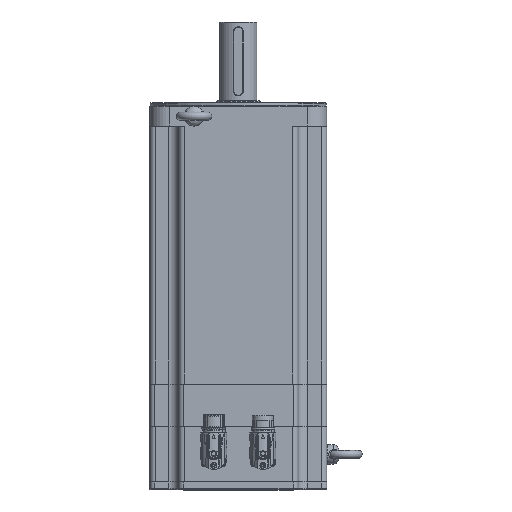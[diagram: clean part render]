
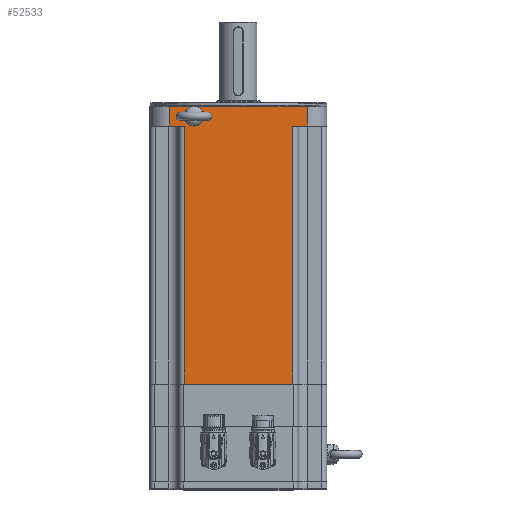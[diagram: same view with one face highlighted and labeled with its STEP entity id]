
A CAD part, top view. The second image highlights one B-rep face of the part: STEP entity #52533.
In plain terms, the highlighted planar face has unit normal (0, 0, 1).
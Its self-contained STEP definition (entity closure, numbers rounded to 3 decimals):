
#2231=PLANE('',#56345);
#4537=LINE('',#86898,#7006);
#4550=LINE('',#86970,#7019);
#4553=LINE('',#86987,#7022);
#4584=LINE('',#87093,#7053);
#4585=LINE('',#87094,#7054);
#4586=LINE('',#87096,#7055);
#4587=LINE('',#87098,#7056);
#4588=LINE('',#87099,#7057);
#7006=VECTOR('',#65711,1000.);
#7019=VECTOR('',#65776,1000.);
#7022=VECTOR('',#65793,1000.);
#7053=VECTOR('',#65896,1000.);
#7054=VECTOR('',#65897,1000.);
#7055=VECTOR('',#65898,1000.);
#7056=VECTOR('',#65899,1000.);
#7057=VECTOR('',#65900,1000.);
#17040=ORIENTED_EDGE('',*,*,#23867,.T.);
#17041=ORIENTED_EDGE('',*,*,#23776,.F.);
#17042=ORIENTED_EDGE('',*,*,#23868,.T.);
#17043=ORIENTED_EDGE('',*,*,#23808,.F.);
#17044=ORIENTED_EDGE('',*,*,#23869,.T.);
#17045=ORIENTED_EDGE('',*,*,#23870,.F.);
#17046=ORIENTED_EDGE('',*,*,#23871,.T.);
#17047=ORIENTED_EDGE('',*,*,#23816,.F.);
#17048=ORIENTED_EDGE('',*,*,#23872,.T.);
#23776=EDGE_CURVE('',#28055,#28056,#4537,.T.);
#23808=EDGE_CURVE('',#28087,#28088,#4550,.T.);
#23816=EDGE_CURVE('',#28095,#28096,#4553,.T.);
#23867=EDGE_CURVE('',#28133,#28133,#30486,.T.);
#23868=EDGE_CURVE('',#28055,#28088,#4584,.F.);
#23869=EDGE_CURVE('',#28087,#28134,#4585,.T.);
#23870=EDGE_CURVE('',#28135,#28134,#4586,.T.);
#23871=EDGE_CURVE('',#28135,#28096,#4587,.F.);
#23872=EDGE_CURVE('',#28095,#28056,#4588,.T.);
#28055=VERTEX_POINT('',#86899);
#28056=VERTEX_POINT('',#86900);
#28087=VERTEX_POINT('',#86969);
#28088=VERTEX_POINT('',#86971);
#28095=VERTEX_POINT('',#86988);
#28096=VERTEX_POINT('',#86989);
#28133=VERTEX_POINT('',#87092);
#28134=VERTEX_POINT('',#87095);
#28135=VERTEX_POINT('',#87097);
#30486=CIRCLE('',#56346,3.324);
#33195=EDGE_LOOP('',(#17040));
#33196=EDGE_LOOP('',(#17041,#17042,#17043,#17044,#17045,#17046,#17047,#17048));
#36251=FACE_BOUND('',#33195,.T.);
#36252=FACE_BOUND('',#33196,.T.);
#52533=ADVANCED_FACE('',(#36251,#36252),#2231,.T.);
#56345=AXIS2_PLACEMENT_3D('',#87090,#65892,#65893);
#56346=AXIS2_PLACEMENT_3D('',#87091,#65894,#65895);
#65711=DIRECTION('',(1.,0.,0.));
#65776=DIRECTION('',(1.,0.,0.));
#65793=DIRECTION('',(1.,0.,0.));
#65892=DIRECTION('',(0.,0.,1.));
#65893=DIRECTION('',(1.,0.,0.));
#65894=DIRECTION('',(0.,0.,-1.));
#65895=DIRECTION('',(0.,-1.,0.));
#65896=DIRECTION('',(0.,1.,0.));
#65897=DIRECTION('',(0.,-1.,0.));
#65898=DIRECTION('',(-1.,0.,0.));
#65899=DIRECTION('',(0.,-1.,0.));
#65900=DIRECTION('',(0.,1.,0.));
#86898=CARTESIAN_POINT('',(90.,283.8,90.));
#86899=CARTESIAN_POINT('',(-55.2,283.8,90.));
#86900=CARTESIAN_POINT('',(55.2,283.8,90.));
#86969=CARTESIAN_POINT('',(-70.,21.3,90.));
#86970=CARTESIAN_POINT('',(90.,21.3,90.));
#86971=CARTESIAN_POINT('',(-55.2,21.3,90.));
#86987=CARTESIAN_POINT('',(90.,21.3,90.));
#86988=CARTESIAN_POINT('',(55.2,21.3,90.));
#86989=CARTESIAN_POINT('',(70.,21.3,90.));
#87090=CARTESIAN_POINT('',(90.,488.463,90.));
#87091=CARTESIAN_POINT('',(45.,11.3,90.));
#87092=CARTESIAN_POINT('',(45.,7.976,90.));
#87093=CARTESIAN_POINT('',(-55.2,488.463,90.));
#87094=CARTESIAN_POINT('',(-70.,488.463,90.));
#87095=CARTESIAN_POINT('',(-70.,1.3,90.));
#87096=CARTESIAN_POINT('',(90.,1.3,90.));
#87097=CARTESIAN_POINT('',(70.,1.3,90.));
#87098=CARTESIAN_POINT('',(70.,488.463,90.));
#87099=CARTESIAN_POINT('',(55.2,488.463,90.));
